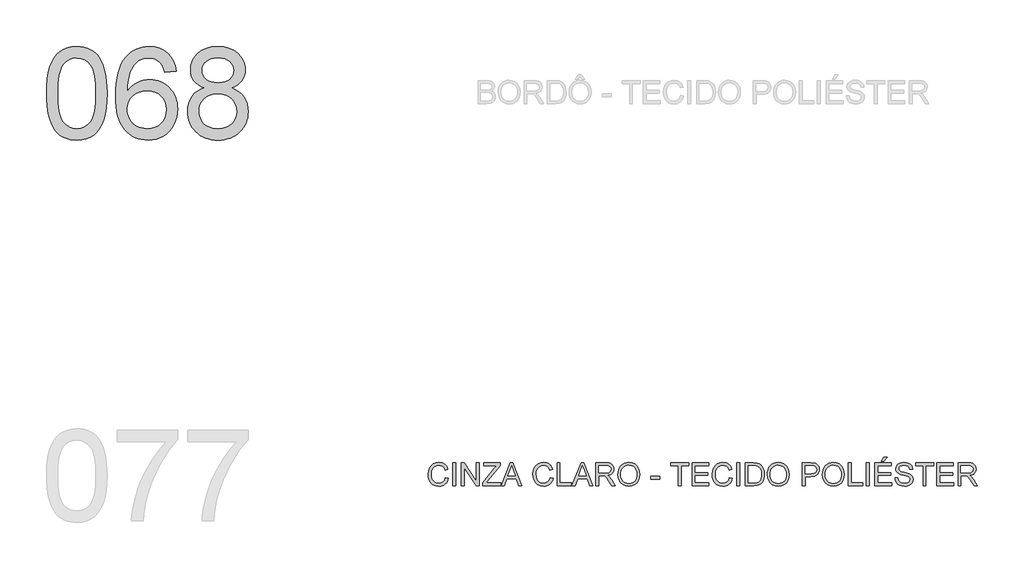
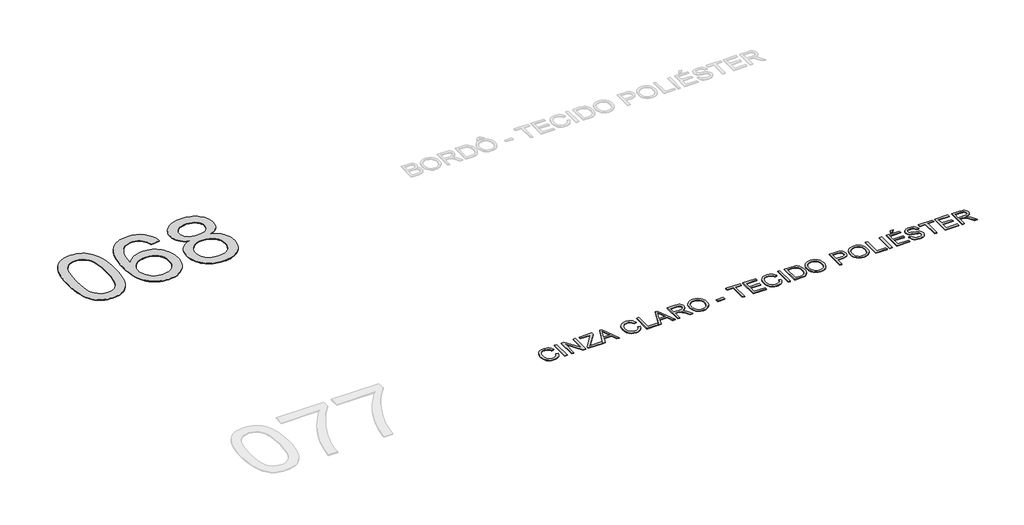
# One storey, part 6 of 67: 2 proxies.
"""IFC4 building model written with IfcOpenShell, lengths in millimetres."""

import ifcopenshell
import ifcopenshell.guid

model = None  # the IFC model being written
_history = None  # IfcOwnerHistory: only IFC2X3 demands one
_inside = {}  # id of a spatial element -> (the spatial element, [elements in it])
_under = {}  # id of a project, library or spatial element -> (it, [spatial elements below it])
_declared = {}  # id of a project -> (the project, [libraries it declares])
_typed = {}  # id of a type object -> (the type object, [elements of that type])
_made_of = {}  # id of a material, layer set ... -> (it, [elements and type objects made of it])


def new_model(schema):
    """Start an empty IFC model of exactly this schema.

    Asked for "IFC4X3", IfcOpenShell would pick the latest addendum, in which some entities
    have other attributes; the version numbers below select the first issue.
    IFC2X3 requires an IfcOwnerHistory on every rooted entity: one is made here for all.
    """
    global model, _history
    if schema == "IFC4X3":
        model = ifcopenshell.file(schema_version=(4, 3, 0, 0))
    else:
        model = ifcopenshell.file(schema=schema)
    _inside.clear()
    _under.clear()
    _declared.clear()
    _typed.clear()
    _made_of.clear()
    _history = None
    if model.schema == "IFC2X3":
        org = make("IfcOrganization", Name="unknown")
        user = make(
            "IfcPersonAndOrganization",
            ThePerson=make("IfcPerson", FamilyName="unknown"),
            TheOrganization=org,
        )
        app = make(
            "IfcApplication",
            ApplicationDeveloper=org,
            Version="unknown",
            ApplicationFullName="unknown",
            ApplicationIdentifier="unknown",
        )
        _history = make(
            "IfcOwnerHistory",
            OwningUser=user,
            OwningApplication=app,
            ChangeAction="ADDED",
            CreationDate=0,
        )
    return model


def make(cls, **values):
    """One entity of the class cls with the attributes given. An attribute that is None is left unset."""
    return model.create_entity(
        cls, **{name: value for name, value in values.items() if value is not None}
    )


def rooted(cls, **values):
    """An entity with a GlobalId (a new one), such as an element, a storey or a relation."""
    return make(cls, GlobalId=ifcopenshell.guid.new(), OwnerHistory=_history, **values)


def si_unit(unit_type, name, prefix=None):
    """IfcSIUnit, for example si_unit("LENGTHUNIT", "METRE", prefix="MILLI")."""
    return make("IfcSIUnit", UnitType=unit_type, Prefix=prefix, Name=name)


def assignment(units):
    """IfcUnitAssignment: the units of a project."""
    return None if units is None else make("IfcUnitAssignment", Units=units)


def point(xyz):
    """IfcCartesianPoint."""
    return None if xyz is None else make("IfcCartesianPoint", Coordinates=xyz)


def direction(xyz):
    """IfcDirection."""
    return None if xyz is None else make("IfcDirection", DirectionRatios=xyz)


def frame(location, z_axis=None, x_axis=None):
    """IfcAxis2Placement3D, a coordinate frame: its origin and axes. An axis left out is left unset."""
    return make(
        "IfcAxis2Placement3D",
        Location=point(location),
        Axis=direction(z_axis),
        RefDirection=direction(x_axis),
    )


def origin():
    """The frame at (0, 0, 0) with its axes left unset."""
    return frame((0.0, 0.0, 0.0))


def origin_with_axes():
    """The frame at (0, 0, 0) with the z axis (0, 0, 1) and the x axis (1, 0, 0) written out."""
    return frame((0.0, 0.0, 0.0), z_axis=(0.0, 0.0, 1.0), x_axis=(1.0, 0.0, 0.0))


def place(relative_to, where):
    """IfcLocalPlacement: puts the frame where relative to a parent placement (None: the world)."""
    return make(
        "IfcLocalPlacement", PlacementRelTo=relative_to, RelativePlacement=where
    )


def context(
    kind, dimensions, precision=None, world=None, true_north=None, identifier=None
):
    """IfcGeometricRepresentationContext, for example the 3D "Model" context."""
    return make(
        "IfcGeometricRepresentationContext",
        ContextIdentifier=identifier,
        ContextType=kind,
        CoordinateSpaceDimension=dimensions,
        Precision=precision,
        WorldCoordinateSystem=world,
        TrueNorth=true_north,
    )


def project(units=None, contexts=None):
    """IfcProject with its units and contexts."""
    return rooted(
        "IfcProject",
        Name="project",
        RepresentationContexts=contexts,
        UnitsInContext=assignment(units),
    )


def spatial(cls, under=None, at=None, **own):
    """A site, building, storey or space (cls), placed at a placement, below another one or the project."""
    s = rooted(cls, ObjectPlacement=at, **own)
    if under is not None:
        _under.setdefault(under.id(), (under, []))[1].append(s)
    return s


def polyline(points):
    """IfcPolyline through the points."""
    return make("IfcPolyline", Points=[point(p) for p in points])


def outline(outer, holes=None, kind="AREA"):
    """IfcArbitraryClosedProfileDef: a profile drawn as a closed curve; with holes, ...WithVoids."""
    if holes is None:
        return make("IfcArbitraryClosedProfileDef", ProfileType=kind, OuterCurve=outer)
    return make(
        "IfcArbitraryProfileDefWithVoids",
        ProfileType=kind,
        OuterCurve=outer,
        InnerCurves=holes,
    )


def extrude(swept, where, along, depth):
    """IfcExtrudedAreaSolid: the profile swept, set in the frame where, extruded along a direction by depth."""
    return make(
        "IfcExtrudedAreaSolid",
        SweptArea=swept,
        Position=where,
        ExtrudedDirection=direction(along),
        Depth=depth,
    )


def shape(context_of_items, identifier, shape_type, items):
    """IfcShapeRepresentation: the items that make up one representation, for example the "Body"."""
    return make(
        "IfcShapeRepresentation",
        ContextOfItems=context_of_items,
        RepresentationIdentifier=identifier,
        RepresentationType=shape_type,
        Items=items,
    )


def made_of(thing, what):
    """Note that an element or type object is made of a material, layer set ...; save() writes the relation."""
    if what is not None:
        _made_of.setdefault(what.id(), (what, []))[1].append(thing)
    return thing


def element(
    cls,
    number,
    at=None,
    inside=None,
    cuts=None,
    type_object=None,
    material=None,
    context=None,
    identifier="Body",
    shape_type=None,
    held_by="IfcProductDefinitionShape",
    body=None,
    shapes=None,
    **own,
):
    """One element of the class cls, such as IfcWall. Its Tag is "e" and its number.

    at: its placement. inside: the storey or other place that contains it. cuts: it is an
    opening in that element (IfcRelVoidsElement). A single representation is given by context,
    identifier, shape_type and body (its items); several are given by shapes. held_by: the class
    of the entity that holds the representations. save() writes the other relations.
    """
    e = rooted(cls, Tag="e%d" % number, ObjectPlacement=at, **own)
    if body is not None:
        shapes = [shape(context, identifier, shape_type, body)]
    if shapes is not None:
        e.Representation = make(held_by, Representations=shapes)
    if inside is not None:
        _inside.setdefault(inside.id(), (inside, []))[1].append(e)
    if cuts is not None:
        rooted(
            "IfcRelVoidsElement", RelatingBuildingElement=cuts, RelatedOpeningElement=e
        )
    if type_object is not None:
        _typed.setdefault(type_object.id(), (type_object, []))[1].append(e)
    return made_of(e, material)


def aggregate(whole, parts):
    """IfcRelAggregates: a whole, such as a stair, and the parts it consists of."""
    return rooted("IfcRelAggregates", RelatingObject=whole, RelatedObjects=parts)


def save(model, path):
    """Write the relations noted so far, then the file.

    IfcRelAggregates (storeys below a building ...), IfcRelContainedInSpatialStructure (elements
    in a storey), IfcRelDefinesByType, IfcRelAssociatesMaterial and IfcRelDeclares: one each for
    every whole, place, type object, material and project.
    """
    for whole, parts in _under.values():
        aggregate(whole, parts)
    for where, things in _inside.values():
        rooted(
            "IfcRelContainedInSpatialStructure",
            RelatedElements=things,
            RelatingStructure=where,
        )
    for kind, things in _typed.values():
        rooted("IfcRelDefinesByType", RelatedObjects=things, RelatingType=kind)
    for what, things in _made_of.values():
        rooted("IfcRelAssociatesMaterial", RelatedObjects=things, RelatingMaterial=what)
    for by, libraries in _declared.values():
        rooted("IfcRelDeclares", RelatingContext=by, RelatedDefinitions=libraries)
    model.write(path)


model = new_model("IFC4")

# Units and contexts
model_context = context("Model", 3, world=origin())
ifc_project = project(units=[si_unit("LENGTHUNIT", "METRE", prefix="MILLI")], contexts=[model_context])

# Site, building, storey
site = spatial("IfcSite", under=ifc_project)
building = spatial("IfcBuilding", under=site)
storey = spatial("IfcBuildingStorey", under=building, Name="Marelli - Linha COLAB - Planta Baixa", Elevation=0.0)

# Proxies
placement = place(None, origin())
element("IfcBuildingElementProxy", 1, Name="1200mm Arial", ObjectType="1200mm Arial", at=placement, inside=storey, context=model_context, shape_type="SweptSolid", body=[
    extrude(outline(polyline([(-25181.1313792, -94895.792664), (-25178.3630672, -94794.4319773), (-25170.0581311, -94702.8385576), (-25156.2165711, -94621.0124048), (-25136.838387, -94548.953519), (-25112.0063523, -94486.073289), (-25081.8032405, -94431.7831035), (-25046.2290516, -94386.0829627), (-25005.2837855, -94348.9728664), (-24958.8294866, -94320.2596767), (-24906.728199, -94299.7502555), (-24848.9799228, -94287.4446027), (-24785.584658, -94283.3427185), (-24737.9439396, -94285.7707396), (-24692.7312424, -94293.0548031), (-24649.9465664, -94305.194909), (-24609.5899115, -94322.1910572), (-24572.6361651, -94343.7581391), (-24540.0602144, -94369.6110463), (-24511.8620595, -94399.7497788), (-24488.0417003, -94434.1743365), (-24467.4035204, -94472.7467637), (-24448.7519032, -94515.3291046), (-24417.4083572, -94612.5235278), (-24405.4337983, -94669.6831928), (-24396.8805419, -94735.9479371), (-24391.7485881, -94811.3177609), (-24390.0379368, -94895.792664), (-24392.7786576, -94996.5095573), (-24401.0008202, -95087.6431245), (-24414.7044246, -95169.1933658), (-24433.8894706, -95241.1602811), (-24458.5283672, -95304.0681023), (-24488.5935233, -95358.4410612), (-24524.0849388, -95404.2791578), (-24565.0026137, -95441.5823921), (-24611.5120949, -95470.4887199), (-24663.7789294, -95491.1360968), (-24721.8031171, -95503.524523), (-24785.584658, -95507.6539984), (-24828.2589694, -95505.8605737), (-24868.5788361, -95500.4802995), (-24906.544258, -95491.5131759), (-24942.1552351, -95478.9592028), (-24975.4117675, -95462.8183803), (-25006.3138551, -95443.0907083), (-25034.8614979, -95419.7761868), (-25061.054696, -95392.8748159), (-25089.1976686, -95350.2786794), (-25113.5882449, -95302.0999336), (-25134.2264248, -95248.3385785), (-25151.1122084, -95188.9946142), (-25164.2455956, -95124.0680406), (-25173.6265865, -95053.5588577), (-25179.255181, -94977.4670655), (-25181.1313792, -94895.792664)]), holes=[polyline([(-25030.446914, -94895.4983584), (-25026.03233, -95026.4919399), (-25012.7885782, -95132.5247279), (-25002.8557643, -95176.1808245), (-24990.7156585, -95213.5967226), (-24976.3682607, -95244.7724225), (-24959.8135709, -95269.7079239), (-24922.4367602, -95307.884878), (-24880.9396711, -95335.1541309), (-24835.3223037, -95351.5156826), (-24785.584658, -95356.9695332), (-24735.8470122, -95351.4972885), (-24690.2296448, -95335.0805545), (-24648.7325558, -95307.7193311), (-24611.3557451, -95269.4136183), (-24594.8010553, -95244.418336), (-24580.4536575, -95213.2104465), (-24568.3135516, -95175.7899498), (-24558.3807378, -95132.1568459), (-24545.1369859, -95026.2528166), (-24540.722402, -94895.4983584), (-24544.9898331, -94767.9720648), (-24557.7921266, -94663.8062779), (-24567.3938467, -94620.4835744), (-24579.1292823, -94583.0009976), (-24592.9984335, -94551.3585475), (-24609.0013003, -94525.5562241), (-24645.7527116, -94485.5122689), (-24687.7280473, -94456.9094438), (-24734.9273073, -94439.7477487), (-24787.3504916, -94434.0271837), (-24836.8306199, -94439.067167), (-24881.6754351, -94454.187117), (-24921.8849372, -94479.3870337), (-24957.4591261, -94514.666917), (-24974.5656389, -94543.2145599), (-24989.3912833, -94577.2068562), (-25001.9360594, -94616.6438061), (-25012.199967, -94661.5254095), (-25025.8851772, -94767.6225769), (-25030.446914, -94895.4983584)])]), origin_with_axes(), (0.0, 0.0, 1.0), 10.0),
    extrude(outline(polyline([(-23485.9311454, -94603.5472071), (-23636.6156107, -94622.3827652), (-23647.6888587, -94582.0812927), (-23660.8958223, -94547.7027202), (-23676.2365015, -94519.2470479), (-23693.7108963, -94496.7142757), (-23726.102906, -94469.2886729), (-23762.063371, -94449.6989567), (-23801.5922914, -94437.9451269), (-23844.6896671, -94434.0271837), (-23880.2270679, -94436.3080521), (-23914.734399, -94443.1506572), (-23948.2116606, -94454.554999), (-23980.6588525, -94470.5210776), (-24010.2641561, -94496.6315022), (-24037.2758916, -94528.1681863), (-24061.694059, -94565.1311297), (-24083.5186584, -94607.5203326), (-24101.5908614, -94658.1316981), (-24114.7518398, -94719.7611293), (-24123.0015935, -94792.4086263), (-24126.3401226, -94876.0741891), (-24097.6177359, -94838.2099347), (-24065.8971108, -94805.5512106), (-24031.1782475, -94778.0980167), (-23993.461146, -94755.8503531), (-23953.7574816, -94738.6610669), (-23913.07893, -94726.3830053), (-23871.4254911, -94719.0161683), (-23828.7971649, -94716.560556), (-23791.8986008, -94718.2390176), (-23756.3979883, -94723.2744024), (-23722.2953273, -94731.6667104), (-23689.590618, -94743.4159416), (-23658.2838602, -94758.5220961), (-23628.375054, -94776.9851737), (-23599.8641993, -94798.8051745), (-23572.7512963, -94823.9820986), (-23547.9882395, -94851.81697), (-23526.5269236, -94881.6108131), (-23508.3673486, -94913.3636278), (-23493.5095145, -94947.0754142), (-23481.9534214, -94982.7461721), (-23473.6990691, -95020.3759017), (-23468.7464577, -95059.9646029), (-23467.0955873, -95101.5122757), (-23470.2041901, -95156.4462547), (-23479.5299987, -95209.4120649), (-23495.073013, -95260.4097065), (-23516.833233, -95309.4391794), (-23544.0381066, -95354.6702707), (-23575.9150814, -95394.2727675), (-23612.4641577, -95428.2466698), (-23653.6853352, -95456.5919775), (-23698.6956973, -95478.9316116), (-23746.6123272, -95494.8884932), (-23797.4352248, -95504.4626221), (-23851.1643902, -95507.6539984), (-23897.1657345, -95505.5386769), (-23940.9919764, -95499.1927125), (-23982.6431161, -95488.6161052), (-24022.1191534, -95473.8088549), (-24059.4200884, -95454.7709616), (-24094.5459212, -95431.5024254), (-24127.4966517, -95404.0032463), (-24158.2722798, -95372.2734242), (-24186.104852, -95335.6875598), (-24210.2264146, -95293.6202536), (-24230.6369675, -95246.0715057), (-24247.3365108, -95193.0413161), (-24260.3250445, -95134.5296848), (-24269.6025686, -95070.5366117), (-24275.169083, -95001.062097), (-24277.0245879, -94926.1061404), (-24274.9644487, -94842.1784618), (-24268.7840312, -94764.1828803), (-24258.4833353, -94692.1193959), (-24244.0623611, -94625.9880088), (-24225.5211085, -94565.7887188), (-24202.8595776, -94511.521526), (-24176.0777684, -94463.1864303), (-24145.1756808, -94420.7834319), (-24115.1611085, -94388.5707647), (-24082.6541357, -94360.6531198), (-24047.6547624, -94337.0304971), (-24010.1629886, -94317.7028968), (-23970.1788142, -94302.6703188), (-23927.7022393, -94291.9327631), (-23882.733264, -94285.4902296), (-23835.271888, -94283.3427185), (-23765.8709497, -94288.6586133), (-23703.055099, -94304.6062978), (-23646.824336, -94331.1857719), (-23597.1786608, -94368.3970358), (-23555.4608425, -94414.9892904), (-23523.0136505, -94469.7117372), (-23499.8370848, -94532.5643761), (-23485.9311454, -94603.5472071)]), holes=[polyline([(-24126.3401226, -95099.157831), (-24124.1604218, -95132.9202011), (-24117.6213193, -95165.9284131), (-24106.7228152, -95198.182467), (-24091.4649095, -95229.6823629), (-24072.5925631, -95258.9473756), (-24050.8507372, -95284.4967801), (-24026.2394317, -95306.3305766), (-23998.7586467, -95324.4487648), (-23968.5831261, -95338.676601), (-23935.8876137, -95348.8393411), (-23900.6721097, -95354.9369852), (-23862.9366141, -95356.9695332), (-23810.559415, -95352.7572843), (-23763.4981108, -95340.1205378), (-23721.7527014, -95319.0592936), (-23685.3231868, -95289.5735517), (-23655.7730656, -95252.8589286), (-23634.6658361, -95210.1110407), (-23622.0014984, -95161.3298882), (-23617.7800525, -95106.5154709), (-23621.9463161, -95053.8439662), (-23634.4451069, -95007.0769676), (-23655.2764249, -94966.214475), (-23684.44027, -94931.2564884), (-23720.9801492, -94903.2514715), (-23763.9395692, -94883.247888), (-23813.31853, -94871.2457379), (-23869.1170316, -94867.2450212), (-23920.7952549, -94871.2457379), (-23968.4083821, -94883.247888), (-24011.9564133, -94903.2514715), (-24051.4393484, -94931.2564884), (-24084.2084371, -94965.7546225), (-24107.6149291, -95005.2375576), (-24121.6588242, -95049.7052938), (-24126.3401226, -95099.157831)])]), origin_with_axes(), (0.0, 0.0, 1.0), 10.0),
    extrude(outline(polyline([(-23115.6947055, -94824.8650154), (-23159.0404016, -94806.7652212), (-23196.371227, -94785.1337599), (-23227.6871819, -94759.9706314), (-23252.9882661, -94731.2758358), (-23272.4952089, -94699.3252845), (-23286.4287394, -94664.3948891), (-23294.7888578, -94626.4846495), (-23297.5755639, -94585.5945657), (-23291.505511, -94524.1398784), (-23283.9179448, -94495.3301197), (-23273.2953522, -94467.7987509), (-23259.6377331, -94441.545772), (-23242.9450876, -94416.571183), (-23200.4547172, -94370.4571749), (-23175.1674285, -94350.0397242), (-23147.865986, -94332.3446002), (-23118.5503895, -94317.371803), (-23087.2206391, -94305.1213326), (-23018.5186765, -94288.787372), (-22941.7600982, -94283.3427185), (-22864.6336379, -94288.9161307), (-22795.4166405, -94305.6363674), (-22763.7741904, -94318.1765449), (-22734.109106, -94333.5034285), (-22706.4213873, -94351.6170183), (-22680.7110344, -94372.5173141), (-22637.4481118, -94419.5326331), (-22620.4519636, -94444.8613085), (-22606.5460242, -94471.4039944), (-22595.7302935, -94499.1606909), (-22588.0047716, -94528.1313981), (-22583.3694585, -94558.3161158), (-22581.8243541, -94589.7148441), (-22584.574272, -94629.160991), (-22592.8240257, -94665.9767817), (-22606.5736153, -94700.1622161), (-22625.8230407, -94731.7172942), (-22650.6642724, -94760.2189518), (-22681.189281, -94785.2441245), (-22717.3980664, -94806.7928124), (-22759.2906286, -94824.8650154), (-22709.764515, -94845.9354566), (-22666.5475776, -94872.6528865), (-22629.6398164, -94905.0173051), (-22599.0412315, -94943.0287122), (-22575.0277342, -94985.8409794), (-22557.8752362, -95032.607978), (-22547.5837374, -95083.3297081), (-22544.1532378, -95138.0061697), (-22545.854692, -95176.3670647), (-22550.9590547, -95213.1644613), (-22559.4663258, -95248.3983594), (-22571.3765054, -95282.068759), (-22586.6895935, -95314.1756601), (-22605.40559, -95344.7190628), (-22627.5244949, -95373.6989669), (-22653.0463083, -95401.1153726), (-22681.3456308, -95426.085363), (-22711.797063, -95447.7260214), (-22744.4006048, -95466.0373477), (-22779.1562563, -95481.019342), (-22816.0640175, -95492.6720042), (-22855.1238883, -95500.9953343), (-22896.3358688, -95505.9893324), (-22939.699959, -95507.6539984), (-22983.0640492, -95505.9824346), (-23024.2760297, -95500.9677432), (-23063.3359005, -95492.6099241), (-23100.2436617, -95480.9089774), (-23134.9993132, -95465.864903), (-23167.602855, -95447.4777011), (-23198.0542872, -95425.7473715), (-23226.3536096, -95400.6739142), (-23251.875423, -95373.1034579), (-23273.994328, -95343.8821312), (-23292.7103245, -95313.009934), (-23308.0234126, -95280.4868664), (-23319.9335922, -95246.3129283), (-23328.4408633, -95210.4881198), (-23333.545226, -95173.0124408), (-23335.2466802, -95133.8858913), (-23331.6782249, -95076.7170293), (-23320.9728588, -95024.4042096), (-23303.130582, -94976.9474322), (-23278.1513946, -94934.3466971), (-23246.5871194, -94897.3745566), (-23208.9895795, -94866.8035628), (-23165.3587748, -94842.6337157), (-23115.6947055, -94824.8650154)]), holes=[polyline([(-23146.8910987, -94590.0091496), (-23143.5525696, -94624.553269), (-23133.5369822, -94655.7864504), (-23116.8443367, -94683.7086938), (-23093.474633, -94708.3199993), (-23063.7221766, -94728.4063562), (-23027.8812732, -94742.753754), (-22985.9519228, -94751.3621927), (-22937.9341254, -94754.2316723), (-22891.1027474, -94751.3805868), (-22850.083905, -94742.8273304), (-22814.877598, -94728.5719031), (-22785.4838266, -94708.6143049), (-22762.3072609, -94684.5180342), (-22745.7525711, -94657.8465896), (-22735.8197573, -94628.5999709), (-22732.5088193, -94596.7781784), (-22735.9301219, -94563.714784), (-22746.1940295, -94533.3921106), (-22763.3005423, -94505.810158), (-22787.2496602, -94480.9689263), (-22817.3056192, -94460.4319139), (-22852.7326553, -94445.7626193), (-22893.5307686, -94436.9610426), (-22939.699959, -94434.0271837), (-22986.2278343, -94436.8966633), (-23027.2190856, -94445.5051019), (-23062.6737129, -94459.8524998), (-23092.5917162, -94479.9388567), (-23116.347696, -94504.0351274), (-23133.3162531, -94530.4122664), (-23143.4973873, -94559.0702739), (-23146.8910987, -94590.0091496)]), polyline([(-23184.562215, -95128.5883906), (-23182.9895195, -95157.6418712), (-23178.2714329, -95186.2354992), (-23159.3990865, -95242.0431979), (-23144.3986982, -95267.9328933), (-23124.5606616, -95290.7139859), (-23099.8849767, -95310.3864756), (-23070.3716437, -95326.9503624), (-23038.1819691, -95340.0837496), (-23005.4772597, -95349.4647405), (-22972.2575156, -95355.093335), (-22938.5227366, -95356.9695332), (-22884.0394131, -95353.0239988), (-22835.9572364, -95341.1873956), (-22794.2762063, -95321.4597236), (-22758.996323, -95293.8409828), (-22730.9269267, -95260.133795), (-22710.877358, -95222.140782), (-22698.8476167, -95179.8619437), (-22694.837703, -95133.2972801), (-22698.9763754, -95085.9876555), (-22711.3923928, -95042.9454621), (-22732.085755, -95004.1706998), (-22761.0564621, -94969.6633687), (-22797.2928387, -94941.336455), (-22839.7832091, -94921.1029453), (-22888.5275735, -94908.9628395), (-22943.5259317, -94904.9161375), (-22997.2091119, -94908.9076572), (-23044.6566922, -94920.8822161), (-23085.8686727, -94940.8398143), (-23120.8450534, -94968.7804519), (-23148.7213116, -95002.7175659), (-23168.6329246, -95040.6645937), (-23180.5798924, -95082.6215353), (-23184.562215, -95128.5883906)])]), origin_with_axes(), (0.0, 0.0, 1.0), 10.0),
])
element("IfcBuildingElementProxy", 2, Name="300mm Arial", ObjectType="300mm Arial", at=placement, inside=storey, context=model_context, shape_type="SweptSolid", body=[
    extrude(outline(polyline([(-19962.5883605, -99923.4390831), (-19924.9172442, -99933.1511677), (-19932.3714531, -99956.5783531), (-19942.2996685, -99977.0486868), (-19954.7018902, -99994.5621691), (-19969.5781184, -100009.1187997), (-19986.5926607, -100020.5622291), (-20005.4098247, -100028.7361071), (-20026.0296106, -100033.640434), (-20048.4520182, -100035.2752096), (-20092.1472021, -100030.3271968), (-20126.8476713, -100015.4831583), (-20153.4455396, -99991.2581289), (-20172.8329207, -99958.1671434), (-20184.6695239, -99919.2636224), (-20188.6150583, -99877.6009865), (-20184.1544891, -99833.6574821), (-20170.7727816, -99795.7104543), (-20149.1689114, -99764.9647166), (-20120.0418544, -99742.6250824), (-20085.4977351, -99729.0226457), (-20047.6426778, -99724.4885001), (-20006.3387268, -99730.3562179), (-19988.3699906, -99737.6908652), (-19972.1900806, -99747.9593714), (-19958.0657112, -99760.8904235), (-19946.263597, -99776.2127086), (-19929.6261337, -99814.0309777), (-19967.29725, -99823.0072984), (-19980.3570609, -99795.5357104), (-19998.1993376, -99776.6909552), (-20021.0448095, -99765.7924511), (-20049.1142058, -99762.1596164), (-20081.4694272, -99766.1879242), (-20108.0489014, -99778.2728478), (-20128.2180318, -99797.1451941), (-20141.3422219, -99821.5357704), (-20148.543512, -99849.1085259), (-20150.943942, -99877.5274101), (-20148.1020536, -99912.3290468), (-20139.5763884, -99942.421794), (-20125.0450496, -99966.6560205), (-20104.1861404, -99983.8820949), (-20079.1793618, -99994.1735937), (-20052.2044145, -99997.6040933), (-20020.759701, -99992.931992), (-19994.5573059, -99978.9156879), (-19974.7744516, -99955.702334), (-19962.5883605, -99923.4390831)])), origin_with_axes(), (0.0, 0.0, 1.0), 10.0),
    extrude(outline(polyline([(-19868.4105697, -100030.5663201), (-19868.4105697, -99729.1973896), (-19830.7394534, -99729.1973896), (-19830.7394534, -100030.5663201), (-19868.4105697, -100030.5663201)])), origin_with_axes(), (0.0, 0.0, 1.0), 10.0),
    extrude(outline(polyline([(-19755.3972208, -100030.5663201), (-19755.3972208, -99729.1973896), (-19715.0773541, -99729.1973896), (-19557.6238602, -99967.9528045), (-19557.6238602, -99729.1973896), (-19519.9527439, -99729.1973896), (-19519.9527439, -100030.5663201), (-19560.2726106, -100030.5663201), (-19717.7261045, -99791.7373288), (-19717.7261045, -100030.5663201), (-19755.3972208, -100030.5663201)])), origin_with_axes(), (0.0, 0.0, 1.0), 10.0),
    extrude(outline(polyline([(-19477.5727381, -100030.5663201), (-19477.5727381, -99991.4972522), (-19323.4301821, -99802.7737887), (-19294.1467753, -99766.8685059), (-19458.7371799, -99766.8685059), (-19458.7371799, -99729.1973896), (-19246.8371507, -99729.1973896), (-19246.8371507, -99766.8685059), (-19415.5478337, -99973.397458), (-19431.4403359, -99992.8952038), (-19242.1282611, -99992.8952038), (-19242.1282611, -100030.5663201), (-19477.5727381, -100030.5663201)])), origin_with_axes(), (0.0, 0.0, 1.0), 10.0),
    extrude(outline(polyline([(-19234.8441976, -100030.5663201), (-19114.5467852, -99729.1973896), (-19082.4674752, -99729.1973896), (-18962.1700628, -100030.5663201), (-19001.9748947, -100030.5663201), (-19036.4822258, -99936.3885293), (-19160.605611, -99936.3885293), (-19195.0393658, -100030.5663201), (-19234.8441976, -100030.5663201)]), holes=[polyline([(-19146.773248, -99898.717413), (-19050.2410125, -99898.717413), (-19077.3907037, -99824.6259792), (-19098.5071302, -99766.8685059), (-19117.269112, -99818.1512561), (-19146.773248, -99898.717413)])]), origin_with_axes(), (0.0, 0.0, 1.0), 10.0),
    extrude(outline(polyline([(-18592.3015049, -99923.4390831), (-18554.6303886, -99933.1511677), (-18562.0845975, -99956.5783531), (-18572.0128128, -99977.0486868), (-18584.4150346, -99994.5621691), (-18599.2912628, -100009.1187997), (-18616.305805, -100020.5622291), (-18635.1229691, -100028.7361071), (-18655.7427549, -100033.640434), (-18678.1651625, -100035.2752096), (-18721.8603465, -100030.3271968), (-18756.5608157, -100015.4831583), (-18783.158684, -99991.2581289), (-18802.5460651, -99958.1671434), (-18814.3826683, -99919.2636224), (-18818.3282027, -99877.6009865), (-18813.8676335, -99833.6574821), (-18800.4859259, -99795.7104543), (-18778.8820558, -99764.9647166), (-18749.7549988, -99742.6250824), (-18715.2108794, -99729.0226457), (-18677.3558221, -99724.4885001), (-18636.0518711, -99730.3562179), (-18618.0831349, -99737.6908652), (-18601.9032249, -99747.9593714), (-18587.7788556, -99760.8904235), (-18575.9767413, -99776.2127086), (-18559.3392781, -99814.0309777), (-18597.0103944, -99823.0072984), (-18610.0702052, -99795.5357104), (-18627.912482, -99776.6909552), (-18650.7579539, -99765.7924511), (-18678.8273501, -99762.1596164), (-18711.1825716, -99766.1879242), (-18737.7620458, -99778.2728478), (-18757.9311761, -99797.1451941), (-18771.0553663, -99821.5357704), (-18778.2566564, -99849.1085259), (-18780.6570864, -99877.5274101), (-18777.815198, -99912.3290468), (-18769.2895327, -99942.421794), (-18754.7581939, -99966.6560205), (-18733.8992848, -99983.8820949), (-18708.8925062, -99994.1735937), (-18681.9175589, -99997.6040933), (-18650.4728453, -99992.931992), (-18624.2704502, -99978.9156879), (-18604.4875959, -99955.702334), (-18592.3015049, -99923.4390831)])), origin_with_axes(), (0.0, 0.0, 1.0), 10.0),
    extrude(outline(polyline([(-18502.8326036, -100030.5663201), (-18502.8326036, -99729.1973896), (-18465.1614873, -99729.1973896), (-18465.1614873, -99992.8952038), (-18314.4770221, -99992.8952038), (-18314.4770221, -100030.5663201), (-18502.8326036, -100030.5663201)])), origin_with_axes(), (0.0, 0.0, 1.0), 10.0),
    extrude(outline(polyline([(-18307.1929586, -100030.5663201), (-18186.8955462, -99729.1973896), (-18154.8162362, -99729.1973896), (-18034.5188238, -100030.5663201), (-18074.3236556, -100030.5663201), (-18108.8309868, -99936.3885293), (-18232.954372, -99936.3885293), (-18267.3881267, -100030.5663201), (-18307.1929586, -100030.5663201)]), holes=[polyline([(-18219.122009, -99898.717413), (-18122.5897734, -99898.717413), (-18149.7394647, -99824.6259792), (-18170.8558912, -99766.8685059), (-18189.6178729, -99818.1512561), (-18219.122009, -99898.717413)])]), origin_with_axes(), (0.0, 0.0, 1.0), 10.0),
    extrude(outline(polyline([(-17994.2725335, -100030.5663201), (-17994.2725335, -99729.1973896), (-17864.4101892, -99729.1973896), (-17829.5073849, -99731.2299376), (-17804.1143302, -99737.3275817), (-17785.5546835, -99748.5847708), (-17771.1521034, -99766.0959537), (-17761.9090683, -99787.8101885), (-17758.8280566, -99811.6765329), (-17763.9324193, -99841.3646099), (-17779.2455073, -99865.9759154), (-17790.8452865, -99876.0052983), (-17805.2271732, -99884.0205273), (-17842.3372695, -99894.0085235), (-17820.9265374, -99910.1217548), (-17790.3923318, -99948.8965171), (-17740.1396512, -100030.5663201), (-17783.9176087, -100030.5663201), (-17823.1338293, -99968.0999573), (-17851.460743, -99926.750021), (-17871.3631589, -99907.2154871), (-17889.2790121, -99900.0417882), (-17911.1312026, -99898.717413), (-17956.6014172, -99898.717413), (-17956.6014172, -100030.5663201), (-17994.2725335, -100030.5663201)]), holes=[polyline([(-17956.6014172, -99861.0462967), (-17872.2828639, -99861.0462967), (-17848.0670316, -99859.7127245), (-17829.2774587, -99855.7120078), (-17815.1323959, -99848.7774322), (-17804.8500942, -99838.6422832), (-17798.5869032, -99826.3826157), (-17796.4991729, -99813.0744845), (-17800.4814955, -99794.6987789), (-17812.4284633, -99779.8915286), (-17832.9838698, -99770.1242616), (-17862.7915084, -99766.8685059), (-17956.6014172, -99766.8685059), (-17956.6014172, -99861.0462967)])]), origin_with_axes(), (0.0, 0.0, 1.0), 10.0),
    extrude(outline(polyline([(-17707.0302717, -99883.8549804), (-17704.519477, -99848.5061192), (-17696.9870932, -99817.213157), (-17684.4331201, -99789.9760937), (-17666.8575578, -99766.7949295), (-17645.3134684, -99748.2858666), (-17620.8539143, -99735.0651074), (-17593.4788953, -99727.1326519), (-17563.1884116, -99724.4885001), (-17523.6594912, -99729.454907), (-17488.2140609, -99744.3541278), (-17458.7835013, -99768.1376988), (-17437.2991928, -99799.7571563), (-17424.1658056, -99837.68579), (-17419.7880098, -99880.3968896), (-17424.3957318, -99923.6782064), (-17438.2188978, -99962.140269), (-17460.4941526, -99993.8149087), (-17490.4581411, -100016.733957), (-17525.6000687, -100030.6398965), (-17563.4091407, -100035.2752096), (-17603.5450664, -100030.1524528), (-17639.1928318, -100014.7841825), (-17668.549815, -99990.5591531), (-17689.8133943, -99958.8661192), (-17702.7260523, -99922.3998164), (-17707.0302717, -99883.8549804)]), holes=[polyline([(-17669.3591554, -99884.2228624), (-17667.4760594, -99909.1974513), (-17661.8267715, -99931.3669401), (-17652.4112917, -99950.7313286), (-17639.22962, -99967.2906169), (-17623.2060598, -99980.5527628), (-17605.2649147, -99990.0257242), (-17585.4061848, -99995.709501), (-17563.6298699, -99997.6040933), (-17541.4810746, -99995.6911069), (-17521.3878198, -99989.9521478), (-17503.3501058, -99980.3872159), (-17487.3679323, -99966.9963113), (-17474.2828296, -99950.0875351), (-17464.9363277, -99929.9689885), (-17459.3284265, -99906.6406715), (-17457.4591261, -99880.102584), (-17460.6596995, -99846.7540812), (-17470.2614196, -99817.9305269), (-17486.015966, -99794.358488), (-17507.6750185, -99776.7645316), (-17533.8038372, -99765.8108452), (-17562.9676824, -99762.1596164), (-17583.9875399, -99763.9185522), (-17603.4898841, -99769.1953595), (-17621.4747152, -99777.9900385), (-17637.942033, -99790.302589), (-17651.687024, -99806.7262208), (-17661.5048748, -99827.8541437), (-17667.3955852, -99853.6863575), (-17669.3591554, -99884.2228624)])]), origin_with_axes(), (0.0, 0.0, 1.0), 10.0),
    extrude(outline(polyline([(-17273.8124341, -99941.0974188), (-17273.8124341, -99903.4263025), (-17156.0901957, -99903.4263025), (-17156.0901957, -99941.0974188), (-17273.8124341, -99941.0974188)])), origin_with_axes(), (0.0, 0.0, 1.0), 10.0),
    extrude(outline(polyline([(-16915.9368292, -100030.5663201), (-16915.9368292, -99766.8685059), (-17014.8235095, -99766.8685059), (-17014.8235095, -99729.1973896), (-16779.3790326, -99729.1973896), (-16779.3790326, -99766.8685059), (-16878.2657129, -99766.8685059), (-16878.2657129, -100030.5663201), (-16915.9368292, -100030.5663201)])), origin_with_axes(), (0.0, 0.0, 1.0), 10.0),
    extrude(outline(polyline([(-16736.9990268, -100030.5663201), (-16736.9990268, -99729.1973896), (-16520.390108, -99729.1973896), (-16520.390108, -99766.8685059), (-16699.3279105, -99766.8685059), (-16699.3279105, -99856.3374072), (-16529.8078871, -99856.3374072), (-16529.8078871, -99894.0085235), (-16699.3279105, -99894.0085235), (-16699.3279105, -99992.8952038), (-16515.6812185, -99992.8952038), (-16515.6812185, -100030.5663201), (-16736.9990268, -100030.5663201)])), origin_with_axes(), (0.0, 0.0, 1.0), 10.0),
    extrude(outline(polyline([(-16247.2745148, -99923.4390831), (-16209.6033985, -99933.1511677), (-16217.0576074, -99956.5783531), (-16226.9858228, -99977.0486868), (-16239.3880445, -99994.5621691), (-16254.2642727, -100009.1187997), (-16271.278815, -100020.5622291), (-16290.095979, -100028.7361071), (-16310.7157649, -100033.640434), (-16333.1381725, -100035.2752096), (-16376.8333565, -100030.3271968), (-16411.5338256, -100015.4831583), (-16438.1316939, -99991.2581289), (-16457.519075, -99958.1671434), (-16469.3556782, -99919.2636224), (-16473.3012126, -99877.6009865), (-16468.8406434, -99833.6574821), (-16455.4589359, -99795.7104543), (-16433.8550657, -99764.9647166), (-16404.7280087, -99742.6250824), (-16370.1838894, -99729.0226457), (-16332.3288321, -99724.4885001), (-16291.0248811, -99730.3562179), (-16273.0561449, -99737.6908652), (-16256.8762349, -99747.9593714), (-16242.7518655, -99760.8904235), (-16230.9497513, -99776.2127086), (-16214.312288, -99814.0309777), (-16251.9834043, -99823.0072984), (-16265.0432152, -99795.5357104), (-16282.8854919, -99776.6909552), (-16305.7309638, -99765.7924511), (-16333.8003601, -99762.1596164), (-16366.1555815, -99766.1879242), (-16392.7350557, -99778.2728478), (-16412.9041861, -99797.1451941), (-16426.0283763, -99821.5357704), (-16433.2296663, -99849.1085259), (-16435.6300963, -99877.5274101), (-16432.7882079, -99912.3290468), (-16424.2625427, -99942.421794), (-16409.7312039, -99966.6560205), (-16388.8722947, -99983.8820949), (-16363.8655161, -99994.1735937), (-16336.8905688, -99997.6040933), (-16305.4458553, -99992.931992), (-16279.2434602, -99978.9156879), (-16259.4606059, -99955.702334), (-16247.2745148, -99923.4390831)])), origin_with_axes(), (0.0, 0.0, 1.0), 10.0),
    extrude(outline(polyline([(-16153.096724, -100030.5663201), (-16153.096724, -99729.1973896), (-16115.4256077, -99729.1973896), (-16115.4256077, -100030.5663201), (-16153.096724, -100030.5663201)])), origin_with_axes(), (0.0, 0.0, 1.0), 10.0),
    extrude(outline(polyline([(-16040.0833751, -100030.5663201), (-16040.0833751, -99729.1973896), (-15936.1199233, -99729.1973896), (-15882.3355756, -99733.5383972), (-15858.3128813, -99741.9077126), (-15838.0425834, -99755.0962821), (-15817.2020683, -99778.0521186), (-15802.3580298, -99806.5997614), (-15793.4736797, -99840.1873876), (-15790.5122296, -99878.2631741), (-15792.5171865, -99910.6091985), (-15798.5320571, -99939.0740679), (-15807.6923188, -99963.3082943), (-15819.1334488, -99982.9623899), (-15832.3036242, -99998.477813), (-15846.6510221, -100010.2960221), (-15863.1229384, -100019.0608107), (-15882.6666694, -100025.4159721), (-15931.1167281, -100030.5663201), (-16040.0833751, -100030.5663201)]), holes=[polyline([(-16002.4122588, -99992.8952038), (-15935.7520413, -99992.8952038), (-15908.1792857, -99991.5340404), (-15887.2651943, -99987.4505502), (-15871.4830567, -99980.8838566), (-15859.3061627, -99972.0730828), (-15846.2187607, -99955.7667134), (-15836.3871144, -99934.6594839), (-15830.234288, -99908.6594239), (-15828.1833459, -99877.6745629), (-15832.2024567, -99836.6189322), (-15844.2597891, -99806.3054558), (-15862.0744747, -99785.4833349), (-15883.3656452, -99772.9017706), (-15905.0338947, -99768.3768221), (-15936.7821109, -99766.8685059), (-16002.4122588, -99766.8685059), (-16002.4122588, -99992.8952038)])]), origin_with_axes(), (0.0, 0.0, 1.0), 10.0),
    extrude(outline(polyline([(-15752.8411133, -99883.8549804), (-15750.3303187, -99848.5061192), (-15742.7979348, -99817.213157), (-15730.2439617, -99789.9760937), (-15712.6683994, -99766.7949295), (-15691.1243101, -99748.2858666), (-15666.6647559, -99735.0651074), (-15639.2897369, -99727.1326519), (-15608.9992532, -99724.4885001), (-15569.4703328, -99729.454907), (-15534.0249026, -99744.3541278), (-15504.5943429, -99768.1376988), (-15483.1100344, -99799.7571563), (-15469.9766472, -99837.68579), (-15465.5988515, -99880.3968896), (-15470.2065734, -99923.6782064), (-15484.0297394, -99962.140269), (-15506.3049942, -99993.8149087), (-15536.2689827, -100016.733957), (-15571.4109103, -100030.6398965), (-15609.2199824, -100035.2752096), (-15649.355908, -100030.1524528), (-15685.0036734, -100014.7841825), (-15714.3606566, -99990.5591531), (-15735.6242359, -99958.8661192), (-15748.5368939, -99922.3998164), (-15752.8411133, -99883.8549804)]), holes=[polyline([(-15715.169997, -99884.2228624), (-15713.286901, -99909.1974513), (-15707.6376131, -99931.3669401), (-15698.2221333, -99950.7313286), (-15685.0404616, -99967.2906169), (-15669.0169014, -99980.5527628), (-15651.0757564, -99990.0257242), (-15631.2170264, -99995.709501), (-15609.4407116, -99997.6040933), (-15587.2919162, -99995.6911069), (-15567.1986615, -99989.9521478), (-15549.1609474, -99980.3872159), (-15533.178774, -99966.9963113), (-15520.0936712, -99950.0875351), (-15510.7471693, -99929.9689885), (-15505.1392681, -99906.6406715), (-15503.2699678, -99880.102584), (-15506.4705411, -99846.7540812), (-15516.0722612, -99817.9305269), (-15531.8268076, -99794.358488), (-15553.4858601, -99776.7645316), (-15579.6146788, -99765.8108452), (-15608.778524, -99762.1596164), (-15629.7983815, -99763.9185522), (-15649.3007257, -99769.1953595), (-15667.2855568, -99777.9900385), (-15683.7528746, -99790.302589), (-15697.4978656, -99806.7262208), (-15707.3157164, -99827.8541437), (-15713.2064268, -99853.6863575), (-15715.169997, -99884.2228624)])]), origin_with_axes(), (0.0, 0.0, 1.0), 10.0),
    extrude(outline(polyline([(-15296.0788281, -100030.5663201), (-15296.0788281, -99729.1973896), (-15184.3898543, -99729.1973896), (-15139.3610981, -99732.0668692), (-15119.2839382, -99737.4287493), (-15102.7568396, -99746.1567496), (-15089.4487084, -99758.6463433), (-15079.0284509, -99775.2930036), (-15072.2962104, -99794.9287051), (-15070.0521302, -99816.3854225), (-15071.5673442, -99834.8852883), (-15076.1129861, -99851.9044291), (-15083.6890559, -99867.4428449), (-15094.2955537, -99881.5005356), (-15108.8567829, -99893.1531978), (-15128.2970471, -99901.476528), (-15152.6163463, -99906.470526), (-15181.8146804, -99908.1351921), (-15258.4077118, -99908.1351921), (-15258.4077118, -100030.5663201), (-15296.0788281, -100030.5663201)]), holes=[polyline([(-15258.4077118, -99870.4640758), (-15179.6073884, -99870.4640758), (-15146.2037032, -99867.005985), (-15124.1307835, -99856.6317127), (-15111.8251308, -99839.9850525), (-15107.7232465, -99817.7097977), (-15110.1420707, -99800.7872259), (-15117.398543, -99786.5134045), (-15128.5913527, -99775.7712502), (-15142.8191889, -99769.4436799), (-15180.4903052, -99766.8685059), (-15258.4077118, -99766.8685059), (-15258.4077118, -99870.4640758)])]), origin_with_axes(), (0.0, 0.0, 1.0), 10.0),
    extrude(outline(polyline([(-15032.3810139, -99883.8549804), (-15029.8702193, -99848.5061192), (-15022.3378355, -99817.213157), (-15009.7838624, -99789.9760937), (-14992.2083001, -99766.7949295), (-14970.6642107, -99748.2858666), (-14946.2046566, -99735.0651074), (-14918.8296376, -99727.1326519), (-14888.5391538, -99724.4885001), (-14849.0102334, -99729.454907), (-14813.5648032, -99744.3541278), (-14784.1342436, -99768.1376988), (-14762.6499351, -99799.7571563), (-14749.5165478, -99837.68579), (-14745.1387521, -99880.3968896), (-14749.7464741, -99923.6782064), (-14763.5696401, -99962.140269), (-14785.8448949, -99993.8149087), (-14815.8088834, -100016.733957), (-14850.950811, -100030.6398965), (-14888.759883, -100035.2752096), (-14928.8958087, -100030.1524528), (-14964.543574, -100014.7841825), (-14993.9005572, -99990.5591531), (-15015.1641366, -99958.8661192), (-15028.0767946, -99922.3998164), (-15032.3810139, -99883.8549804)]), holes=[polyline([(-14994.7098976, -99884.2228624), (-14992.8268017, -99909.1974513), (-14987.1775138, -99931.3669401), (-14977.762034, -99950.7313286), (-14964.5803622, -99967.2906169), (-14948.5568021, -99980.5527628), (-14930.615657, -99990.0257242), (-14910.7569271, -99995.709501), (-14888.9806122, -99997.6040933), (-14866.8318168, -99995.6911069), (-14846.7385621, -99989.9521478), (-14828.700848, -99980.3872159), (-14812.7186746, -99966.9963113), (-14799.6335719, -99950.0875351), (-14790.28707, -99929.9689885), (-14784.6791688, -99906.6406715), (-14782.8098684, -99880.102584), (-14786.0104418, -99846.7540812), (-14795.6121618, -99817.9305269), (-14811.3667083, -99794.358488), (-14833.0257607, -99776.7645316), (-14859.1545795, -99765.8108452), (-14888.3184246, -99762.1596164), (-14909.3382821, -99763.9185522), (-14928.8406264, -99769.1953595), (-14946.8254574, -99777.9900385), (-14963.2927752, -99790.302589), (-14977.0377663, -99806.7262208), (-14986.855617, -99827.8541437), (-14992.7463275, -99853.6863575), (-14994.7098976, -99884.2228624)])]), origin_with_axes(), (0.0, 0.0, 1.0), 10.0),
    extrude(outline(polyline([(-14693.3409672, -100030.5663201), (-14693.3409672, -99729.1973896), (-14655.6698509, -99729.1973896), (-14655.6698509, -99992.8952038), (-14504.9853856, -99992.8952038), (-14504.9853856, -100030.5663201), (-14693.3409672, -100030.5663201)])), origin_with_axes(), (0.0, 0.0, 1.0), 10.0),
    extrude(outline(polyline([(-14457.8964903, -100030.5663201), (-14457.8964903, -99729.1973896), (-14420.225374, -99729.1973896), (-14420.225374, -100030.5663201), (-14457.8964903, -100030.5663201)])), origin_with_axes(), (0.0, 0.0, 1.0), 10.0),
    extrude(outline(polyline([(-14344.8831413, -100030.5663201), (-14344.8831413, -99729.1973896), (-14128.2742226, -99729.1973896), (-14128.2742226, -99766.8685059), (-14307.212025, -99766.8685059), (-14307.212025, -99856.3374072), (-14137.6920017, -99856.3374072), (-14137.6920017, -99894.0085235), (-14307.212025, -99894.0085235), (-14307.212025, -99992.8952038), (-14123.565333, -99992.8952038), (-14123.565333, -100030.5663201), (-14344.8831413, -100030.5663201)])), origin_with_axes(), (0.0, 0.0, 1.0), 10.0),
    extrude(outline(polyline([(-14260.1231297, -99710.3618315), (-14231.8697924, -99653.855157), (-14184.780897, -99653.855157), (-14231.8697924, -99710.3618315), (-14260.1231297, -99710.3618315)])), origin_with_axes(), (0.0, 0.0, 1.0), 10.0),
    extrude(outline(polyline([(-14081.1853272, -99926.9707502), (-14043.5142109, -99926.9707502), (-14039.1915975, -99947.8756446), (-14031.3741051, -99964.6786547), (-14019.1788169, -99978.0143771), (-14001.7228162, -99988.517408), (-13980.3856605, -99995.332422), (-13956.5469072, -99997.6040933), (-13935.5592394, -99995.884245), (-13917.1835338, -99990.7247), (-13902.29351, -99982.5577197), (-13891.7628879, -99971.8155654), (-13885.4996969, -99959.4823216), (-13883.4119666, -99946.5420724), (-13884.9754651, -99933.932917), (-13889.6659605, -99923.0344129), (-13899.1941042, -99913.7361954), (-13915.2705474, -99905.9279001), (-13970.1217529, -99891.5437141), (-14006.1282031, -99882.0247675), (-14029.1668131, -99872.9656733), (-14047.9195978, -99860.2921386), (-14061.2093349, -99844.9330653), (-14069.1279948, -99827.2195472), (-14071.7675481, -99807.4826782), (-14068.5025954, -99785.4189555), (-14058.7077373, -99764.845155), (-14042.6404912, -99747.4075484), (-14020.5583744, -99734.7524077), (-13994.0524766, -99727.054477), (-13964.7138875, -99724.4885001), (-13932.9288831, -99727.1740386), (-13905.1170043, -99735.2306543), (-13882.2715324, -99748.4928003), (-13865.3857488, -99766.7949295), (-13854.6987769, -99788.9966079), (-13850.4497398, -99813.9574013), (-13888.1208561, -99813.9574013), (-13895.0370376, -99791.4798114), (-13909.4580119, -99775.2562154), (-13931.9907841, -99765.4337661), (-13963.2423595, -99762.1596164), (-13995.229699, -99765.3969779), (-14017.17386, -99775.1090626), (-14029.8657889, -99789.4012781), (-14034.0964318, -99806.3790322), (-14031.0981936, -99820.8551887), (-14022.1034788, -99832.4986539), (-14000.8398995, -99842.9097143), (-13960.5936092, -99853.541504), (-13919.0597319, -99863.6398648), (-13893.9333917, -99872.4506385), (-13872.4582802, -99886.1174547), (-13857.4762859, -99902.9848441), (-13848.6747092, -99922.868866), (-13845.7408503, -99945.5855792), (-13849.1161676, -99968.8081301), (-13859.2421195, -99990.6511236), (-13875.7048388, -100009.4498935), (-13898.0904582, -100023.539774), (-13925.0102232, -100032.3413507), (-13955.0753793, -100035.2752096), (-13991.9831404, -100032.1114244), (-14022.3609962, -100022.620069), (-14046.5584344, -100006.764355), (-14064.924943, -99984.5074943), (-14076.715561, -99957.3945912), (-14081.1853272, -99926.9707502)])), origin_with_axes(), (0.0, 0.0, 1.0), 10.0),
    extrude(outline(polyline([(-13713.8919432, -100030.5663201), (-13713.8919432, -99766.8685059), (-13812.7786235, -99766.8685059), (-13812.7786235, -99729.1973896), (-13577.3341466, -99729.1973896), (-13577.3341466, -99766.8685059), (-13676.2208269, -99766.8685059), (-13676.2208269, -100030.5663201), (-13713.8919432, -100030.5663201)])), origin_with_axes(), (0.0, 0.0, 1.0), 10.0),
    extrude(outline(polyline([(-13534.9541408, -100030.5663201), (-13534.9541408, -99729.1973896), (-13318.345222, -99729.1973896), (-13318.345222, -99766.8685059), (-13497.2830245, -99766.8685059), (-13497.2830245, -99856.3374072), (-13327.7630011, -99856.3374072), (-13327.7630011, -99894.0085235), (-13497.2830245, -99894.0085235), (-13497.2830245, -99992.8952038), (-13313.6363325, -99992.8952038), (-13313.6363325, -100030.5663201), (-13534.9541408, -100030.5663201)])), origin_with_axes(), (0.0, 0.0, 1.0), 10.0),
    extrude(outline(polyline([(-13257.129658, -100030.5663201), (-13257.129658, -99729.1973896), (-13127.2673137, -99729.1973896), (-13092.3645094, -99731.2299376), (-13066.9714547, -99737.3275817), (-13048.411808, -99748.5847708), (-13034.0092279, -99766.0959537), (-13024.7661928, -99787.8101885), (-13021.6851811, -99811.6765329), (-13026.7895438, -99841.3646099), (-13042.1026318, -99865.9759154), (-13053.702411, -99876.0052983), (-13068.0842977, -99884.0205273), (-13105.194394, -99894.0085235), (-13083.7836619, -99910.1217548), (-13053.2494563, -99948.8965171), (-13002.9967757, -100030.5663201), (-13046.7747332, -100030.5663201), (-13085.9909538, -99968.0999573), (-13114.3178675, -99926.750021), (-13134.2202834, -99907.2154871), (-13152.1361366, -99900.0417882), (-13173.9883271, -99898.717413), (-13219.4585417, -99898.717413), (-13219.4585417, -100030.5663201), (-13257.129658, -100030.5663201)]), holes=[polyline([(-13219.4585417, -99861.0462967), (-13135.1399884, -99861.0462967), (-13110.9241561, -99859.7127245), (-13092.1345832, -99855.7120078), (-13077.9895205, -99848.7774322), (-13067.7072187, -99838.6422832), (-13061.4440277, -99826.3826157), (-13059.3562974, -99813.0744845), (-13063.33862, -99794.6987789), (-13075.2855878, -99779.8915286), (-13095.8409943, -99770.1242616), (-13125.6486329, -99766.8685059), (-13219.4585417, -99766.8685059), (-13219.4585417, -99861.0462967)])]), origin_with_axes(), (0.0, 0.0, 1.0), 10.0),
])

save(model, "model.ifc")
